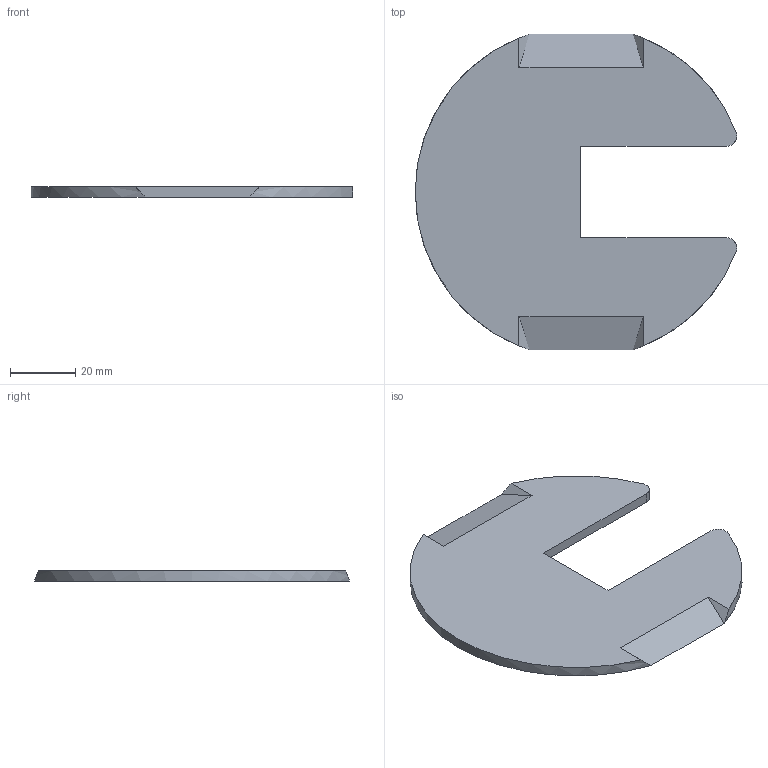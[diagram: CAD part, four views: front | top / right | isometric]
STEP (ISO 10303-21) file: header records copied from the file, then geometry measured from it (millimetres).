
FILE_DESCRIPTION(/* description */ ('STEP AP242 Edition 2','CAx-IF Rec.Pracs.---Representation and Presentation of Product Manufacturing Information (PMI)---4.0---2014-10-13','CAx-IF Rec.Pracs.---3D Tessellated Geometry---0.4---2014-09-14','2;1','CAx-IF Rec.Pracs.---User Defined Attributes---1.5---2016-08-15'),/* implementation_level */ '2;1');
FILE_NAME(/* name */ 'Landing Bar Bracket - Weight Base',/* time_stamp */ '2026-06-03T09:57:16Z',/* author */ (''),/* organization */ (''),/* preprocessor_version */ 'ST-DEVELOPER v20',/* originating_system */ 'ONSHAPE BY PTC INC, 1.215',/* authorisation */ ' ');
FILE_SCHEMA (('AP242_MANAGED_MODEL_BASED_3D_ENGINEERING_MIM_LF { 1 0 10303 442 3 1 4 }'));
Length unit declared in the file: metre
Products named in the file (1): Weight Base
Bounding box: 98.41 x 96.51 x 3.17 mm (x, y, z)
Volume: 19754.7 mm3; surface area: 14306.7 mm2
Topology: 1 solids, 1 shells, 16 faces, 41 edges, 27 vertices
Faces by surface type: plane 11, cylinder 5
Entity records: 516 total; most frequent: DIRECTION 92, CARTESIAN_POINT 85, ORIENTED_EDGE 82, EDGE_CURVE 41, AXIS2_PLACEMENT_3D 34, VERTEX_POINT 27, LINE 24, VECTOR 24
